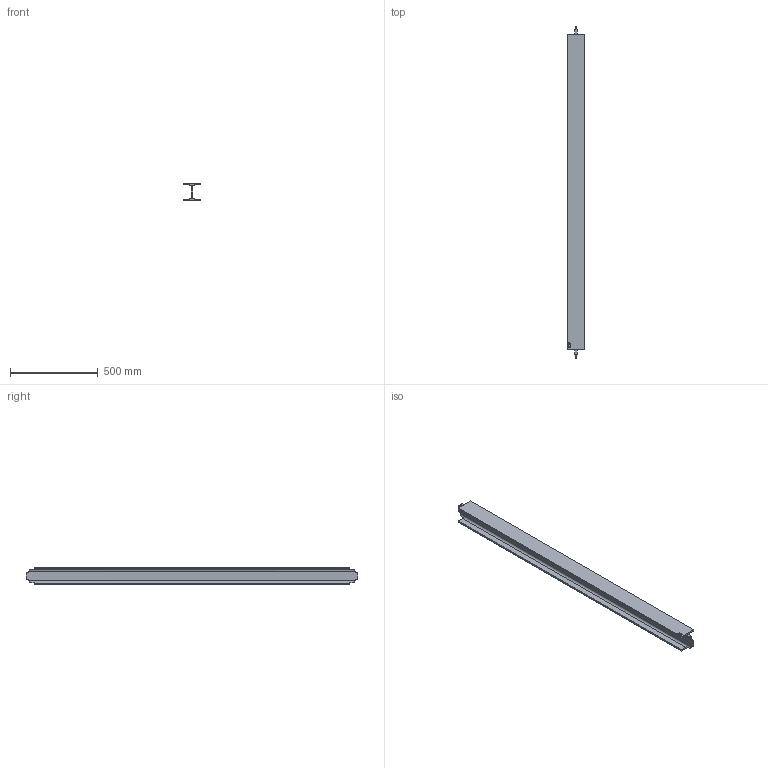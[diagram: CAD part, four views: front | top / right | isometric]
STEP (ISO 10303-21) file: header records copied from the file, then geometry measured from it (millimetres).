
FILE_DESCRIPTION (( 'STEP AP214' ), '1' );
FILE_NAME ('CCJ029-REP.027 - POUTRE INTERMEDIAIRE B4-C4.STEP', '2025-02-13T09:47:30', ( '' ), ( '' ), 'SwSTEP 2.0', 'SolidWorks 2021', '' );
FILE_SCHEMA (( 'AUTOMOTIVE_DESIGN' ));
Length unit declared in the file: millimetre
Products named in the file (1): CCJ029-REP.027 - POUTRE INTERMEDIAIRE B4-C4
Bounding box: 100 x 1890 x 100 mm (x, y, z)
Volume: 4714806.4 mm3; surface area: 1038607 mm2
Topology: 1 solids, 1 shells, 61 faces, 165 edges, 110 vertices
Faces by surface type: plane 38, bspline 15, cylinder 8
Entity records: 3143 total; most frequent: CARTESIAN_POINT 1672, ORIENTED_EDGE 330, DIRECTION 237, EDGE_CURVE 165, VECTOR 111, LINE 111, VERTEX_POINT 110, EDGE_LOOP 65
